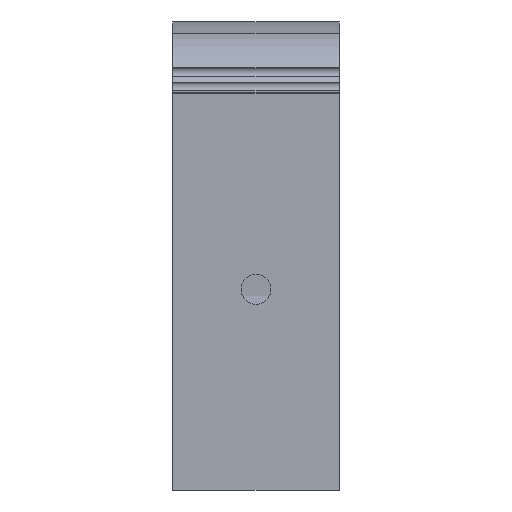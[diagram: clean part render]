
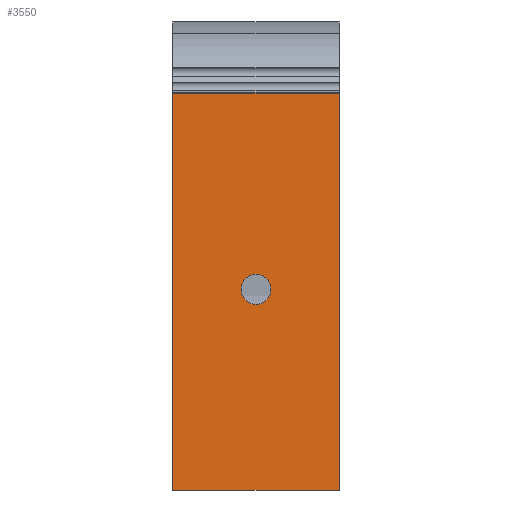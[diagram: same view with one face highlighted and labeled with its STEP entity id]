
A CAD part, front view. The second image highlights one B-rep face of the part: STEP entity #3550.
In plain terms, the highlighted planar face has unit normal (0, -1, 0).
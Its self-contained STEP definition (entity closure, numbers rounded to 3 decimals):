
#63 = CARTESIAN_POINT ( 'NONE',  ( 50., -100., -60.353 ) ) ;
#84 = AXIS2_PLACEMENT_3D ( 'NONE', #1297, #3215, #1580 ) ;
#156 = VERTEX_POINT ( 'NONE', #2509 ) ;
#201 = VECTOR ( 'NONE', #1486, 1000. ) ;
#266 = VECTOR ( 'NONE', #1627, 1000. ) ;
#348 = ORIENTED_EDGE ( 'NONE', *, *, #3267, .T. ) ;
#399 = EDGE_CURVE ( 'NONE', #1257, #1089, #2590, .T. ) ;
#665 = EDGE_CURVE ( 'NONE', #950, #919, #1889, .T. ) ;
#726 = CARTESIAN_POINT ( 'NONE',  ( 25., -100., -4.5 ) ) ;
#777 = VECTOR ( 'NONE', #2530, 1000. ) ;
#807 = CARTESIAN_POINT ( 'NONE',  ( 25., -100., 4.5 ) ) ;
#814 = VERTEX_POINT ( 'NONE', #3220 ) ;
#919 = VERTEX_POINT ( 'NONE', #2164 ) ;
#939 = LINE ( 'NONE', #2581, #201 ) ;
#950 = VERTEX_POINT ( 'NONE', #3021 ) ;
#979 = AXIS2_PLACEMENT_3D ( 'NONE', #1405, #3316, #1698 ) ;
#1089 = VERTEX_POINT ( 'NONE', #726 ) ;
#1216 = PLANE ( 'NONE',  #2222 ) ;
#1257 = VERTEX_POINT ( 'NONE', #807 ) ;
#1297 = CARTESIAN_POINT ( 'NONE',  ( 25., -100., 0. ) ) ;
#1319 = CARTESIAN_POINT ( 'NONE',  ( 0., -100., 58.976 ) ) ;
#1405 = CARTESIAN_POINT ( 'NONE',  ( 25., -100., 0. ) ) ;
#1486 = DIRECTION ( 'NONE',  ( 0., 0., -1. ) ) ;
#1508 = LINE ( 'NONE', #63, #777 ) ;
#1580 = DIRECTION ( 'NONE',  ( 0., 0., -1. ) ) ;
#1627 = DIRECTION ( 'NONE',  ( -1., 0., 0. ) ) ;
#1698 = DIRECTION ( 'NONE',  ( 0., 0., -1. ) ) ;
#1722 = ORIENTED_EDGE ( 'NONE', *, *, #3410, .F. ) ;
#1812 = FACE_BOUND ( 'NONE', #2440, .T. ) ;
#1875 = DIRECTION ( 'NONE',  ( 0., 0., -1. ) ) ;
#1889 = LINE ( 'NONE', #3246, #266 ) ;
#2107 = CIRCLE ( 'NONE', #84, 4.5 ) ;
#2164 = CARTESIAN_POINT ( 'NONE',  ( 0., -100., 58.976 ) ) ;
#2222 = AXIS2_PLACEMENT_3D ( 'NONE', #2585, #2314, #3140 ) ;
#2314 = DIRECTION ( 'NONE',  ( 0., 1., 0. ) ) ;
#2378 = ORIENTED_EDGE ( 'NONE', *, *, #2587, .F. ) ;
#2440 = EDGE_LOOP ( 'NONE', ( #2582, #2658 ) ) ;
#2509 = CARTESIAN_POINT ( 'NONE',  ( 50., -100., -60.353 ) ) ;
#2530 = DIRECTION ( 'NONE',  ( -1., 0., 0. ) ) ;
#2546 = FACE_OUTER_BOUND ( 'NONE', #3116, .T. ) ;
#2581 = CARTESIAN_POINT ( 'NONE',  ( 50., -100., 58.976 ) ) ;
#2582 = ORIENTED_EDGE ( 'NONE', *, *, #3221, .F. ) ;
#2585 = CARTESIAN_POINT ( 'NONE',  ( 50., -100., 58.976 ) ) ;
#2587 = EDGE_CURVE ( 'NONE', #950, #156, #939, .T. ) ;
#2590 = CIRCLE ( 'NONE', #979, 4.5 ) ;
#2658 = ORIENTED_EDGE ( 'NONE', *, *, #399, .F. ) ;
#2666 = LINE ( 'NONE', #1319, #3304 ) ;
#3021 = CARTESIAN_POINT ( 'NONE',  ( 50., -100., 58.976 ) ) ;
#3116 = EDGE_LOOP ( 'NONE', ( #348, #1722, #2378, #3553 ) ) ;
#3140 = DIRECTION ( 'NONE',  ( 0., 0., 1. ) ) ;
#3215 = DIRECTION ( 'NONE',  ( 0., -1., 0. ) ) ;
#3220 = CARTESIAN_POINT ( 'NONE',  ( 0., -100., -60.353 ) ) ;
#3221 = EDGE_CURVE ( 'NONE', #1089, #1257, #2107, .T. ) ;
#3246 = CARTESIAN_POINT ( 'NONE',  ( 50., -100., 58.976 ) ) ;
#3267 = EDGE_CURVE ( 'NONE', #919, #814, #2666, .T. ) ;
#3304 = VECTOR ( 'NONE', #1875, 1000. ) ;
#3316 = DIRECTION ( 'NONE',  ( 0., -1., 0. ) ) ;
#3410 = EDGE_CURVE ( 'NONE', #156, #814, #1508, .T. ) ;
#3550 = ADVANCED_FACE ( 'NONE', ( #1812, #2546 ), #1216, .F. ) ;
#3553 = ORIENTED_EDGE ( 'NONE', *, *, #665, .T. ) ;
